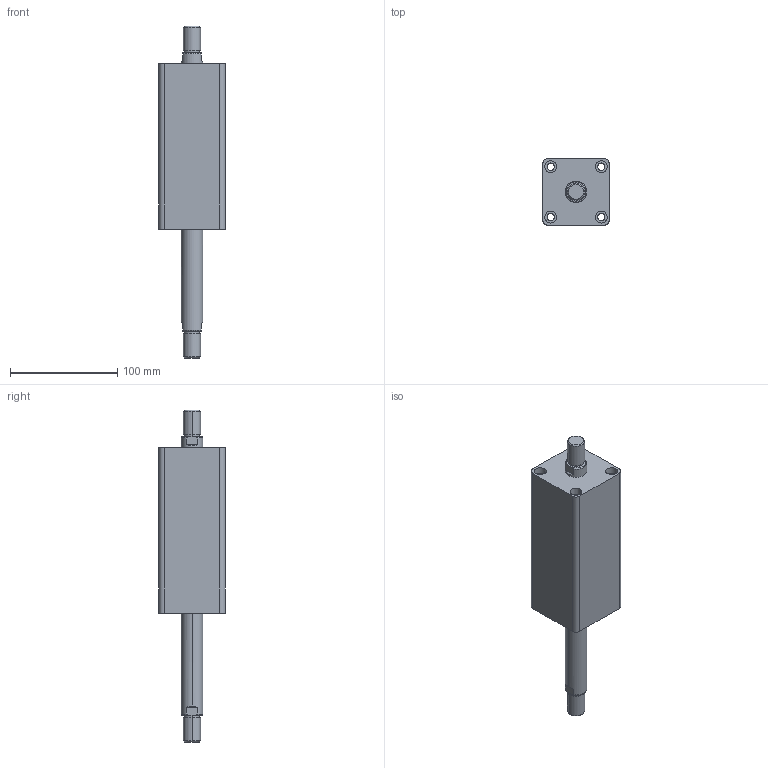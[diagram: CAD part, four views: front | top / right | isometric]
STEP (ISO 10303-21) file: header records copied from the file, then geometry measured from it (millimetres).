
FILE_DESCRIPTION (( 'STEP AP203' ), '1' );
FILE_NAME ('HTB-SW32-85W.STEP', '2019-10-07T08:59:31', ( '微软用户' ), ( '微软中国' ), 'SwSTEP 2.0', 'SolidWorks 2012', '' );
FILE_SCHEMA (( 'CONFIG_CONTROL_DESIGN' ));
Length unit declared in the file: millimetre
Products named in the file (3): HTB-SW32-85W; HTB-SW32-85W活塞杆; HTB-SW32-85掛极
Assembly tree (2 placements, depth 2):
  HTB-SW32-85W
    HTB-SW32-85掛极
    HTB-SW32-85W活塞杆
Bounding box: 62 x 62 x 309 mm (x, y, z)
Volume: 561848.1 mm3; surface area: 93724.7 mm2
Topology: 2 solids, 2 shells, 108 faces, 240 edges, 156 vertices
Faces by surface type: cylinder 52, plane 36, torus 12, cone 8
Entity records: 3449 total; most frequent: CARTESIAN_POINT 629, DIRECTION 586, ORIENTED_EDGE 480, AXIS2_PLACEMENT_3D 249, EDGE_CURVE 240, VERTEX_POINT 156, EDGE_LOOP 138, CIRCLE 136
